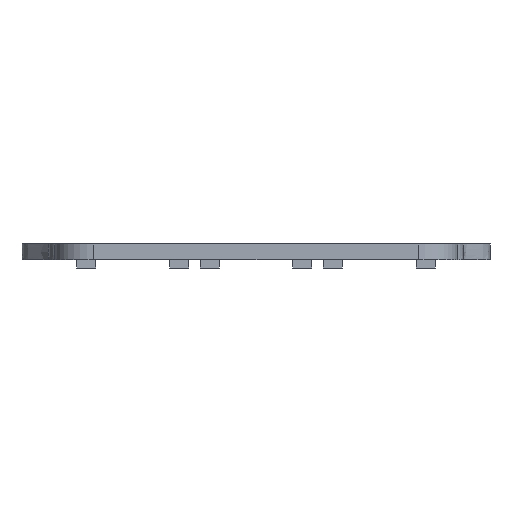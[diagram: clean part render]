
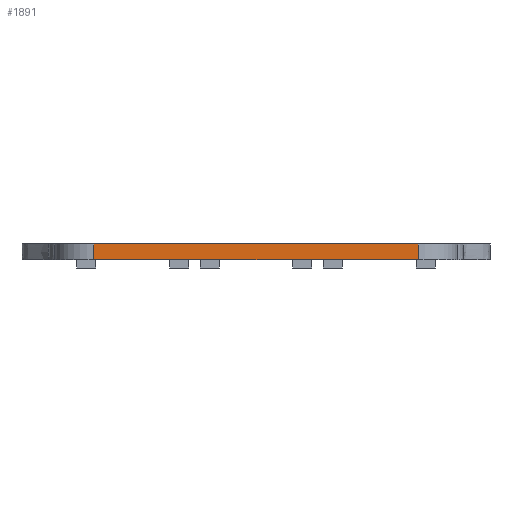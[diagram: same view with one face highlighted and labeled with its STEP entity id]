
A CAD part, front view. The second image highlights one B-rep face of the part: STEP entity #1891.
In plain terms, the highlighted planar face has unit normal (0, -1, 0).
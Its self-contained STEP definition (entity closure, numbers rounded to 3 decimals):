
#667 = VERTEX_POINT('',#668);
#668 = CARTESIAN_POINT('',(29.,44.5,67.7));
#675 = EDGE_CURVE('',#676,#667,#678,.T.);
#676 = VERTEX_POINT('',#677);
#677 = CARTESIAN_POINT('',(-29.,44.5,67.7));
#678 = LINE('',#679,#680);
#679 = CARTESIAN_POINT('',(-29.,44.5,67.7));
#680 = VECTOR('',#681,1.);
#681 = DIRECTION('',(1.,0.,0.));
#1334 = VERTEX_POINT('',#1335);
#1335 = CARTESIAN_POINT('',(-29.,44.5,70.5));
#1342 = EDGE_CURVE('',#1334,#1343,#1345,.T.);
#1343 = VERTEX_POINT('',#1344);
#1344 = CARTESIAN_POINT('',(29.,44.5,70.5));
#1345 = LINE('',#1346,#1347);
#1346 = CARTESIAN_POINT('',(-29.,44.5,70.5));
#1347 = VECTOR('',#1348,1.);
#1348 = DIRECTION('',(1.,0.,0.));
#1861 = EDGE_CURVE('',#667,#1343,#1862,.T.);
#1862 = LINE('',#1863,#1864);
#1863 = CARTESIAN_POINT('',(29.,44.5,67.7));
#1864 = VECTOR('',#1865,1.);
#1865 = DIRECTION('',(0.,0.,1.));
#1891 = ADVANCED_FACE('',(#1892),#1903,.F.);
#1892 = FACE_BOUND('',#1893,.F.);
#1893 = EDGE_LOOP('',(#1894,#1900,#1901,#1902));
#1894 = ORIENTED_EDGE('',*,*,#1895,.T.);
#1895 = EDGE_CURVE('',#676,#1334,#1896,.T.);
#1896 = LINE('',#1897,#1898);
#1897 = CARTESIAN_POINT('',(-29.,44.5,67.7));
#1898 = VECTOR('',#1899,1.);
#1899 = DIRECTION('',(0.,0.,1.));
#1900 = ORIENTED_EDGE('',*,*,#1342,.T.);
#1901 = ORIENTED_EDGE('',*,*,#1861,.F.);
#1902 = ORIENTED_EDGE('',*,*,#675,.F.);
#1903 = PLANE('',#1904);
#1904 = AXIS2_PLACEMENT_3D('',#1905,#1906,#1907);
#1905 = CARTESIAN_POINT('',(-29.,44.5,67.7));
#1906 = DIRECTION('',(0.,1.,0.));
#1907 = DIRECTION('',(1.,0.,0.));
